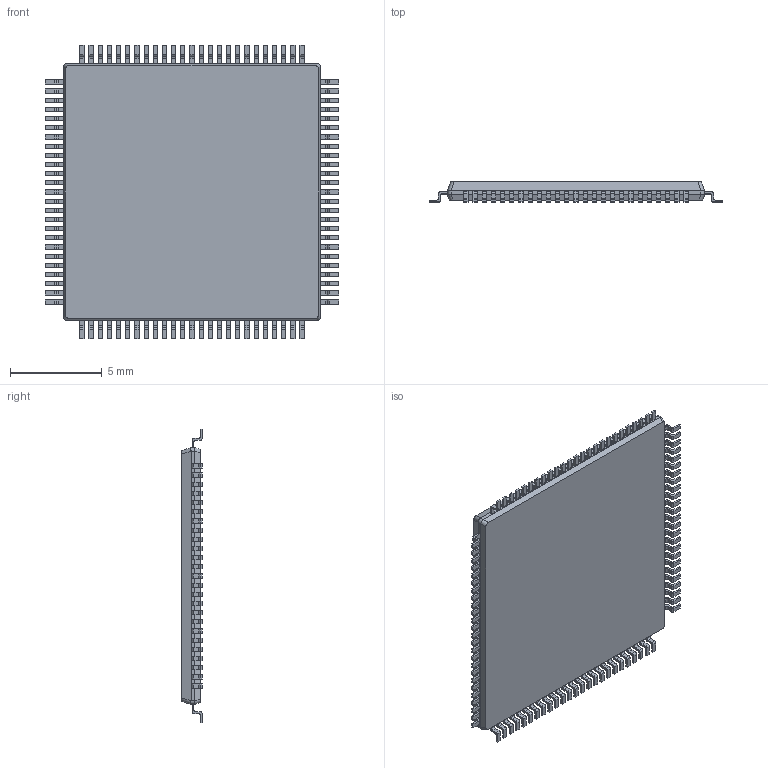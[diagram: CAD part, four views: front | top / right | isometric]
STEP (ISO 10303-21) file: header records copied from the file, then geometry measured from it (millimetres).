
FILE_DESCRIPTION (( 'STEP AP214' ), '1' );
FILE_NAME ('User Library-100A-14x14.STEP', '2019-06-06T09:10:47', ( '' ), ( '' ), 'SwSTEP 2.0', 'SolidWorks 2019', '' );
FILE_SCHEMA (( 'AUTOMOTIVE_DESIGN' ));
Length unit declared in the file: millimetre
Products named in the file (1): User Library-100A-14x14
Bounding box: 16 x 1.1 x 16 mm (x, y, z)
Volume: 196 mm3; surface area: 530.8 mm2
Topology: 101 solids, 101 shells, 1429 faces, 3678 edges, 2452 vertices
Faces by surface type: plane 1015, cylinder 414
Entity records: 55813 total; most frequent: CARTESIAN_POINT 7656, ORIENTED_EDGE 7356, DIRECTION 7310, EDGE_CURVE 3678, LINE 2842, VECTOR 2842, VERTEX_POINT 2452, AXIS2_PLACEMENT_3D 2234
